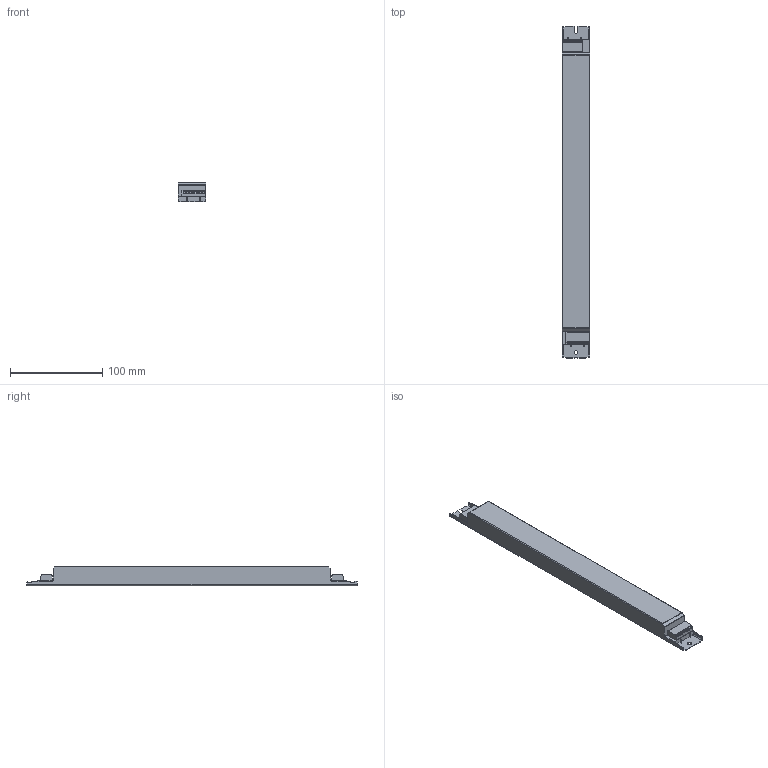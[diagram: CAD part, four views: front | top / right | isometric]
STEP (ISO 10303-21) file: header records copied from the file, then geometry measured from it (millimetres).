
FILE_DESCRIPTION((''),'2;1');
FILE_NAME('15011320Z_TW2_360X30','2019-05-24T09:30:05',('juergen.hrach'),(''),'CREO PARAMETRIC BY PTC INC, 2017380','CREO PARAMETRIC BY PTC INC, 2017380','');
FILE_SCHEMA(('AUTOMOTIVE_DESIGN { 1 0 10303 214 1 1 1 1 }'));
Length unit declared in the file: millimetre
Products named in the file (1): 15011320Z_TW2_360X30
Bounding box: 30 x 360 x 21 mm (x, y, z)
Volume: 198080.5 mm3; surface area: 36450.8 mm2
Topology: 1 solids, 1 shells, 186 faces, 539 edges, 356 vertices
Faces by surface type: plane 93, cylinder 93
Entity records: 8403 total; most frequent: CARTESIAN_POINT 1431, ORIENTED_EDGE 1078, DIRECTION 993, PRESENTATION_STYLE_ASSIGNMENT 542, STYLED_ITEM 540, CURVE_STYLE 539, EDGE_CURVE 539, VERTEX_POINT 356
